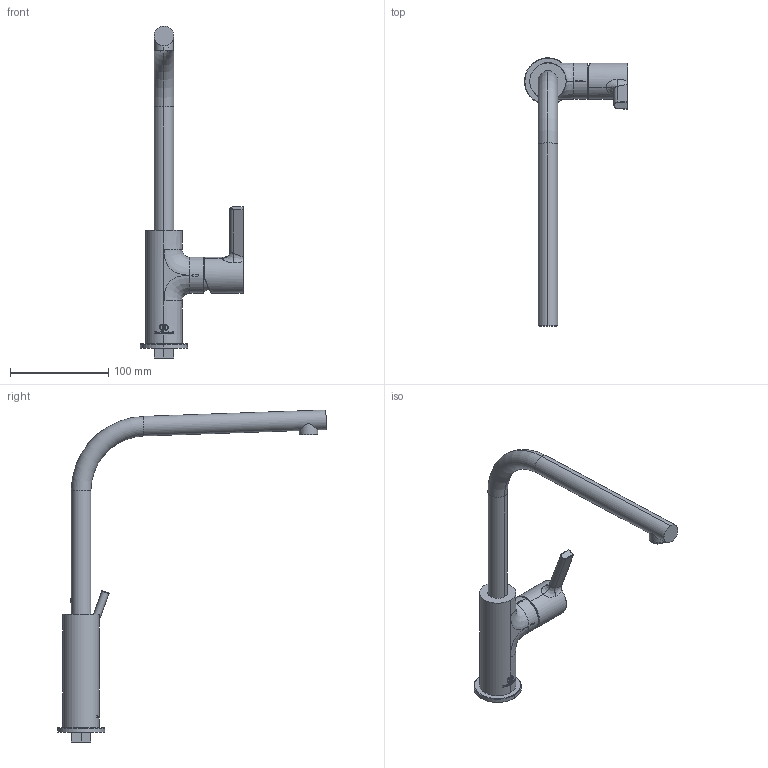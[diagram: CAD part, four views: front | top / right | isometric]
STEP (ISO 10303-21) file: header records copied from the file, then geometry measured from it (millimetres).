
FILE_DESCRIPTION((''),'2;1');
FILE_NAME('BD418AA_3DPL','2023-06-09T15:53:55',('HristovG'),('IDEAL STANDARD BVBA'),'CREO PARAMETRIC BY PTC INC, 2022024','CREO PARAMETRIC BY PTC INC, 2022024','');
FILE_SCHEMA(('AP242_MANAGED_MODEL_BASED_3D_ENGINEERING_MIM_LF { 1 0 10303 442 1 1 4 }'));
Length unit declared in the file: millimetre
Products named in the file (1): BD418AA_3DPL
Bounding box: 105.16 x 274.03 x 338.25 mm (x, y, z)
Volume: 340431.8 mm3; surface area: 55902.5 mm2
Topology: 1 solids, 4 shells, 340 faces, 865 edges, 557 vertices
Faces by surface type: bspline 161, plane 104, cylinder 55, torus 13, sphere 4, extrusion 2, cone 1
Entity records: 27350 total; most frequent: CARTESIAN_POINT 17642, ORIENTED_EDGE 1718, DIRECTION 982, EDGE_CURVE 865, VERTEX_POINT 557, B_SPLINE_CURVE_WITH_KNOTS 386, EDGE_LOOP 367, VECTOR 342
